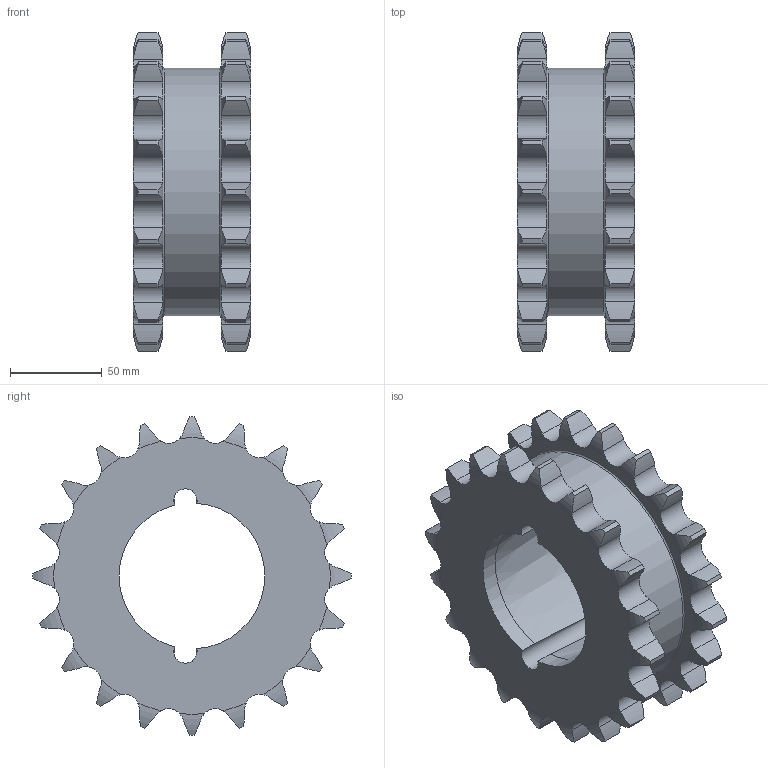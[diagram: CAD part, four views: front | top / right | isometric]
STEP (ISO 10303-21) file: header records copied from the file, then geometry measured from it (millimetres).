
FILE_DESCRIPTION(/* description */ (''),/* implementation_level */ '2;1');
FILE_NAME(/* name */ 'C:\Users\stagistaCAD\Desktop\Nuova cartella\27225020.stp',/* time_stamp */ '2018-06-25T10:42:13+02:00',/* author */ ('stagistacad'),/* organization */ (''),/* preprocessor_version */ 'ST-DEVELOPER v15.6',/* originating_system */ 'Autodesk Inventor 2015',/* authorisation */ '');
FILE_SCHEMA (('AUTOMOTIVE_DESIGN { 1 0 10303 214 3 1 1 }'));
Length unit declared in the file: millimetre
Products named in the file (1): 27225020
Bounding box: 64 x 173.49 x 173.49 mm (x, y, z)
Volume: 719398.8 mm3; surface area: 91942.3 mm2
Topology: 1 solids, 1 shells, 255 faces, 754 edges, 502 vertices
Faces by surface type: cylinder 166, torus 82, plane 4, cone 3
Full cylindrical faces by diameter (mm): 135 x1
Entity records: 9524 total; most frequent: CARTESIAN_POINT 3103, ORIENTED_EDGE 1496, DIRECTION 1190, EDGE_CURVE 748, AXIS2_PLACEMENT_3D 513, VERTEX_POINT 500, B_SPLINE_CURVE_WITH_KNOTS 327, EDGE_LOOP 262
